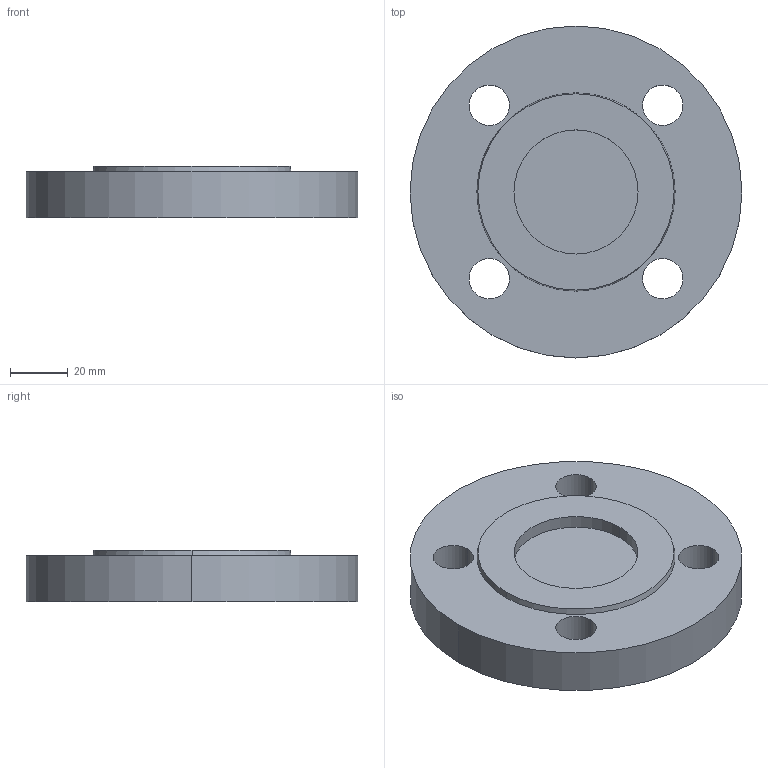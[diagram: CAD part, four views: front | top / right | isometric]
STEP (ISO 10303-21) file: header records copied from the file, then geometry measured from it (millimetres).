
FILE_DESCRIPTION (( 'STEP AP214' ), '1' );
FILE_NAME ('PN40 DN25 Type 05 - Type G Face.STEP', '2018-12-29T20:33:47', ( '' ), ( '' ), 'SwSTEP 2.0', 'SolidWorks 2019', '' );
FILE_SCHEMA (( 'AUTOMOTIVE_DESIGN' ));
Length unit declared in the file: millimetre
Products named in the file (1): PN40 DN25 Type 05 - Type G Face
Bounding box: 115 x 115 x 18 mm (x, y, z)
Volume: 157142.3 mm3; surface area: 29105.9 mm2
Topology: 1 solids, 1 shells, 18 faces, 42 edges, 28 vertices
Faces by surface type: cylinder 12, plane 4, cone 2
Entity records: 584 total; most frequent: DIRECTION 108, CARTESIAN_POINT 89, ORIENTED_EDGE 84, AXIS2_PLACEMENT_3D 47, EDGE_CURVE 42, CIRCLE 28, VERTEX_POINT 28, EDGE_LOOP 28
